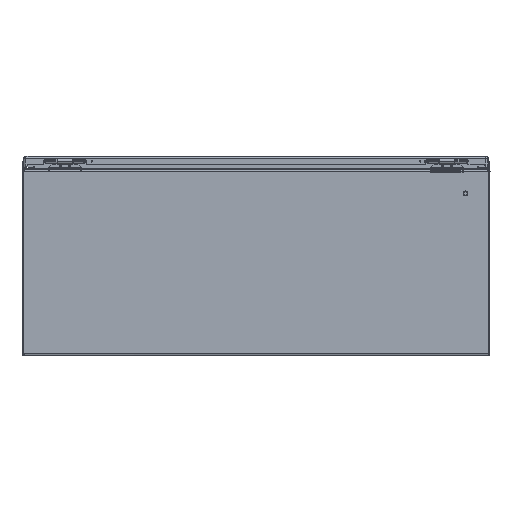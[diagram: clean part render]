
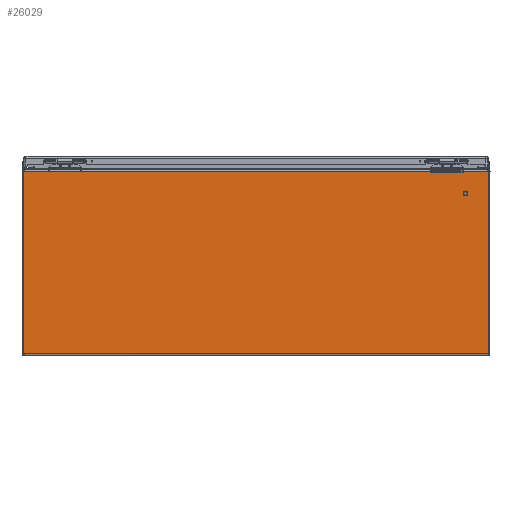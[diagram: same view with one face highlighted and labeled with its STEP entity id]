
A CAD part, left-side view. The second image highlights one B-rep face of the part: STEP entity #26029.
In plain terms, the highlighted planar face has unit normal (-1, 0, 0).
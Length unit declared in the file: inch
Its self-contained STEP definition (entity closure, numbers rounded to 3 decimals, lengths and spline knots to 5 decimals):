
#18032 = CARTESIAN_POINT ( 'NONE',  ( -15., 14.92093, 0.132 ) ) ;
#18034 = CARTESIAN_POINT ( 'NONE',  ( -15., 14.92093, 11.838 ) ) ;
#18064 = CARTESIAN_POINT ( 'NONE',  ( -15., -14.92093, 11.838 ) ) ;
#18066 = CARTESIAN_POINT ( 'NONE',  ( -15., -14.92093, 0.132 ) ) ;
#18537 = VECTOR ( 'NONE', #18765, 39.37008 ) ;
#18547 = LINE ( 'NONE', #18764, #18537 ) ;
#18608 = LINE ( 'NONE', #18872, #18612 ) ;
#18612 = VECTOR ( 'NONE', #18873, 39.37008 ) ;
#18645 = LINE ( 'NONE', #18925, #18646 ) ;
#18646 = VECTOR ( 'NONE', #18926, 39.37008 ) ;
#18656 = LINE ( 'NONE', #18930, #18658 ) ;
#18658 = VECTOR ( 'NONE', #18938, 39.37008 ) ;
#18764 = CARTESIAN_POINT ( 'NONE',  ( -15., 14.92093, 11.838 ) ) ;
#18765 = DIRECTION ( 'NONE',  ( 0., 0., -1. ) ) ;
#18872 = CARTESIAN_POINT ( 'NONE',  ( -15., -14.92093, 11.838 ) ) ;
#18873 = DIRECTION ( 'NONE',  ( 0., 0., 1. ) ) ;
#18925 = CARTESIAN_POINT ( 'NONE',  ( -15., 165., 11.838 ) ) ;
#18926 = DIRECTION ( 'NONE',  ( 0., -1., 0. ) ) ;
#18930 = CARTESIAN_POINT ( 'NONE',  ( -15., 165., 0.132 ) ) ;
#18938 = DIRECTION ( 'NONE',  ( 0., -1., 0. ) ) ;
#20547 = VERTEX_POINT ( 'NONE', #18032 ) ;
#20549 = VERTEX_POINT ( 'NONE', #18034 ) ;
#20579 = VERTEX_POINT ( 'NONE', #18064 ) ;
#20581 = VERTEX_POINT ( 'NONE', #18066 ) ;
#21915 = EDGE_CURVE ( 'NONE', #20549, #20547, #18547, .T. ) ;
#21965 = EDGE_CURVE ( 'NONE', #20581, #20579, #18608, .T. ) ;
#21989 = EDGE_CURVE ( 'NONE', #20549, #20579, #18645, .T. ) ;
#21994 = EDGE_CURVE ( 'NONE', #20547, #20581, #18656, .T. ) ;
#23031 = EDGE_LOOP ( 'NONE', ( #32170, #32171, #32172, #32173 ) ) ;
#26029 = ADVANCED_FACE ( 'NONE', ( #33437 ), #33292, .T. ) ;
#30328 = AXIS2_PLACEMENT_3D ( 'NONE', #33284, #33303, #33305 ) ;
#32170 = ORIENTED_EDGE ( 'NONE', *, *, #21965, .T. ) ;
#32171 = ORIENTED_EDGE ( 'NONE', *, *, #21989, .F. ) ;
#32172 = ORIENTED_EDGE ( 'NONE', *, *, #21915, .T. ) ;
#32173 = ORIENTED_EDGE ( 'NONE', *, *, #21994, .T. ) ;
#33284 = CARTESIAN_POINT ( 'NONE',  ( -15., 165., 11.838 ) ) ;
#33292 = PLANE ( 'NONE',  #30328 ) ;
#33303 = DIRECTION ( 'NONE',  ( -1., 0., 0. ) ) ;
#33305 = DIRECTION ( 'NONE',  ( 0., 0., -1. ) ) ;
#33437 = FACE_OUTER_BOUND ( 'NONE', #23031, .T. ) ;
